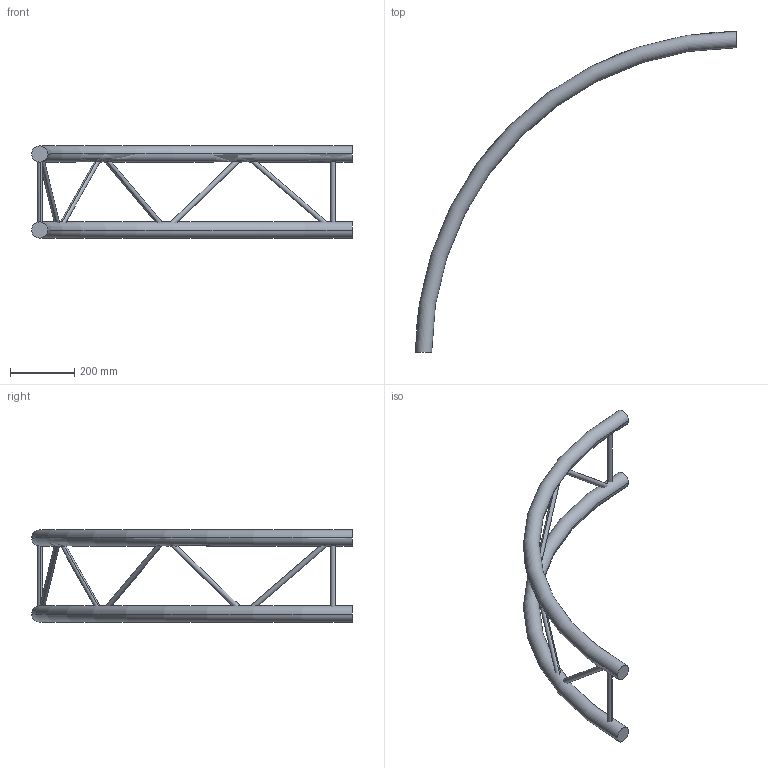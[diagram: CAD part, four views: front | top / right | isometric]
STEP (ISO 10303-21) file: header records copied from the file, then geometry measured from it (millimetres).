
FILE_DESCRIPTION (( 'STEP AP203' ), '1' );
FILE_NAME ('EXC29200V.STEP', '2009-10-26T09:30:18', ( 'CEDIA' ), ( 'CEDIA INDUSTRIE' ), 'SwSTEP 2.0', 'SolidWorks 2009', '' );
FILE_SCHEMA (( 'CONFIG_CONTROL_DESIGN' ));
Length unit declared in the file: millimetre
Products named in the file (1): EXC29200V
Bounding box: 1000 x 1000 x 287 mm (x, y, z)
Volume: 6428806.3 mm3; surface area: 591296 mm2
Topology: 2 solids, 2 shells, 29 faces, 68 edges, 44 vertices
Faces by surface type: cylinder 14, plane 11, torus 4
Entity records: 1599 total; most frequent: CARTESIAN_POINT 876, ORIENTED_EDGE 136, DIRECTION 129, EDGE_CURVE 68, AXIS2_PLACEMENT_3D 56, VERTEX_POINT 44, EDGE_LOOP 36, ADVANCED_FACE 29
